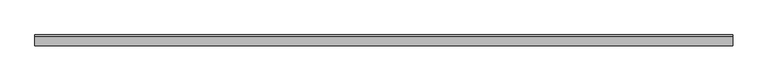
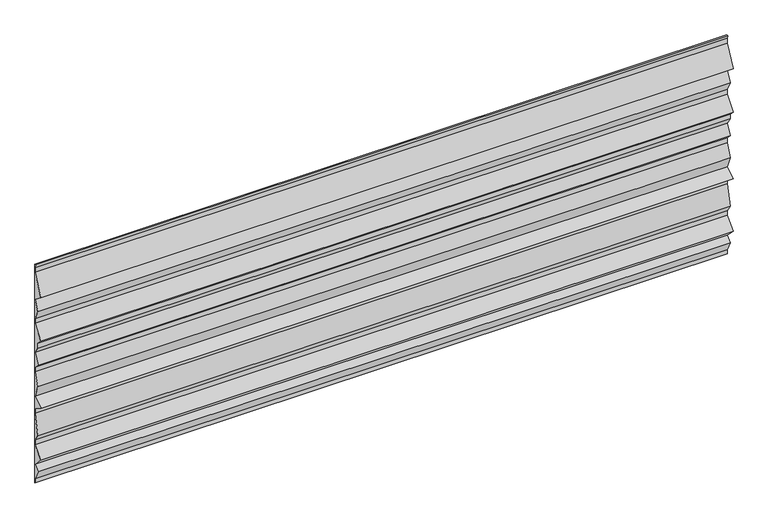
"""IFC4 building model written with IfcOpenShell, lengths in millimetres: plate geometry, ATELIERS 3S_GLACE PISSAILLAS 1000_HORIZONTAL : AZURO."""

from ifc_helpers import new_model, si_unit, frame, origin, place, context, project, spatial, polyline, outline, extrude, source, transform, mapped, element, save


def plate_3c911e78(model_context):
    return source(origin(), model_context, "Body", "SweptSolid", [
        extrude(outline(polyline([(-0.8, 0.0), (-0.8, 16.9163895), (-20.9135393, 57.5498441), (-1.0660999, 76.9962838), (-41.0606602, 116.9908441), (-0.75, 157.3015043), (-0.75, 176.7637624), (-20.8080747, 206.8508744), (-0.75, 287.0831733), (-0.75, 306.5751584), (-41.4150972, 331.9908441), (-0.9292392, 357.2945053), (-20.8077747, 406.9908441), (-0.75, 457.1352809), (-0.75, 476.6801839), (-20.9125704, 496.8427543), (-0.8654665, 536.9369621), (-20.75, 566.7637624), (-20.75, 586.6801839), (-41.009736, 606.9399199), (-0.75, 656.2580964), (-0.75, 675.8137931), (-20.8385255, 715.9908441), (-0.9507458, 755.7664035), (-40.9507458, 785.7664035), (-0.75, 866.1678951), (-0.75, 885.8862432), (-4.7649271, 900.0), (0.0, 900.0), (0.0, 0.0), (-0.8, 0.0)])), frame((-1347.25, 0.0, 0.0), z_axis=(1.0, 0.0, 0.0), x_axis=(0.0, 1.0, 0.0)), (0.0, 0.0, 1.0), 2694.5),
    ])


if __name__ == "__main__":
    model = new_model("IFC4")
    model_context = context("Model", 3, world=origin())
    ifc_project = project(units=[si_unit("LENGTHUNIT", "METRE", prefix="MILLI")], contexts=[model_context])
    site = spatial("IfcSite", under=ifc_project)
    building = spatial("IfcBuilding", under=site)
    placement = place(None, origin())
    plate_shape = plate_3c911e78(model_context)
    element("IfcPlate", 1, ObjectType="ATELIERS 3S_GLACE PISSAILLAS 1000_HORIZONTAL : AZURO", at=placement, inside=building, context=model_context, shape_type="MappedRepresentation", body=[
        mapped(plate_shape, transform((0.0, 0.0, 0.0), x_axis=(1.0, 0.0, 0.0), y_axis=(0.0, 1.0, 0.0), z_axis=(0.0, 0.0, 1.0))),
    ])
    save(model, "model.ifc")
